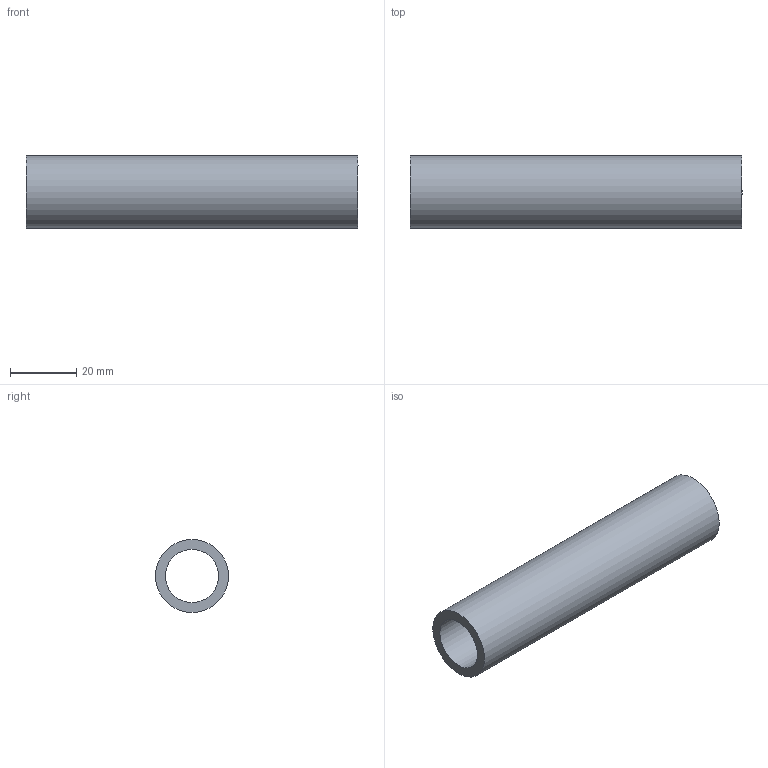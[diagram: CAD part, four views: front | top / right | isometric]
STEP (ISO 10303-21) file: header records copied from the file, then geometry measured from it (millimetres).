
FILE_DESCRIPTION(/* description */ (''),/* implementation_level */ '2;1');
FILE_NAME(/* name */ 'Pos103-Precisie buis 22x3-Aluminium-10st',/* time_stamp */ '2024-08-06T11:49:45+02:00',/* author */ (''),/* organization */ (''),/* preprocessor_version */ 'ST-DEVELOPER v16.5',/* originating_system */ 'HiCAD 2024 2901.2 Build 361',/* authorisation */ '');
FILE_SCHEMA (('AUTOMOTIVE_DESIGN { 1 0 10303 214 1 1 1 1 }'));
Length unit declared in the file: millimetre
Products named in the file (1): Pos103-Precisie buis 22x3-Aluminium-10st
Bounding box: 100 x 22 x 22 mm (x, y, z)
Volume: 17907.1 mm3; surface area: 12296.2 mm2
Topology: 1 solids, 1 shells, 4 faces, 6 edges, 4 vertices
Faces by surface type: cylinder 2, plane 2
Full cylindrical faces by diameter (mm): 16 x1, 22 x1
Entity records: 146 total; most frequent: DIRECTION 16, CARTESIAN_POINT 12, PRESENTATION_STYLE_ASSIGNMENT 9, COLOUR_RGB 9, DRAUGHTING_PRE_DEFINED_CURVE_FONT 8, CURVE_STYLE 8, OVER_RIDING_STYLED_ITEM 8, ORIENTED_EDGE 8
